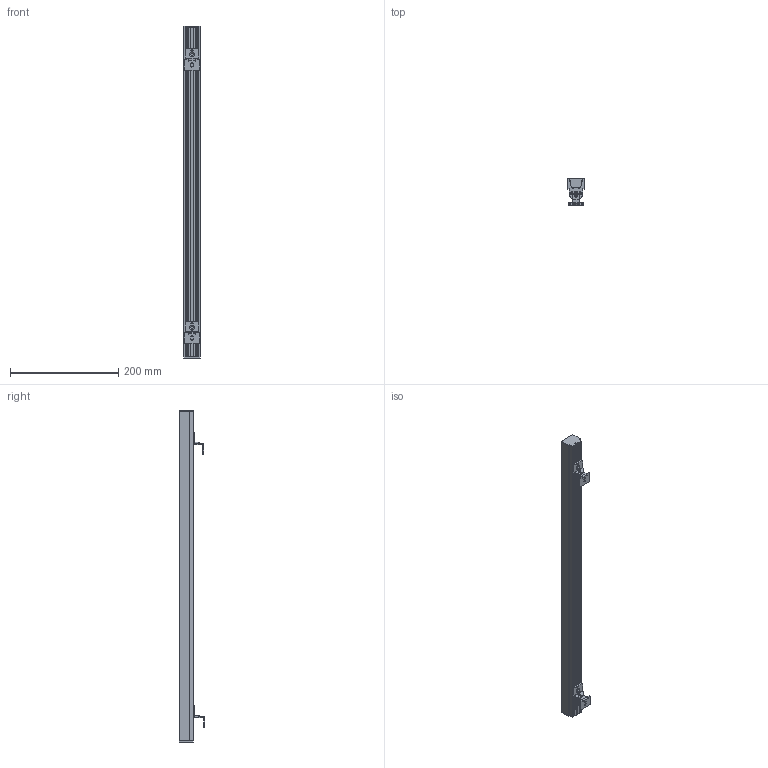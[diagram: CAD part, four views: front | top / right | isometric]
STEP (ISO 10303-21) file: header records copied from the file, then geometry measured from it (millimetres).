
FILE_DESCRIPTION (( 'STEP AP203' ), '1' );
FILE_NAME ('FACADE 610.STEP', '2023-03-23T14:20:02', ( '' ), ( '' ), 'SwSTEP 2.0', 'SolidWorks 2016', '' );
FILE_SCHEMA (( 'CONFIG_CONTROL_DESIGN' ));
Length unit declared in the file: millimetre
Products named in the file (7): PROVA; supporto lenti; resina; 0-BLX-0414-0-00; 0-BLX-0413-0-00; FACADE 610; 0-WKL-0109-0-00
Assembly tree (9 placements, depth 2):
  FACADE 610
    0-BLX-0414-0-00  x2
    0-BLX-0413-0-00  x2
    supporto lenti
    resina
    PROVA
    0-WKL-0109-0-00  x2
Bounding box: 30.36 x 47.51 x 614 mm (x, y, z)
Volume: 532448 mm3; surface area: 201409.2 mm2
Topology: 9 solids, 9 shells, 776 faces, 1936 edges, 1214 vertices
Faces by surface type: plane 406, cylinder 256, torus 88, bspline 14, cone 12
Entity records: 19150 total; most frequent: CARTESIAN_POINT 3474, DIRECTION 3267, ORIENTED_EDGE 3014, EDGE_CURVE 1507, AXIS2_PLACEMENT_3D 1158, LINE 951, VECTOR 951, VERTEX_POINT 937
